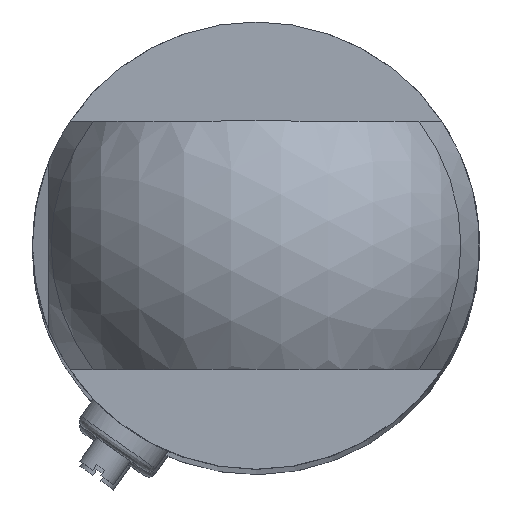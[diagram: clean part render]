
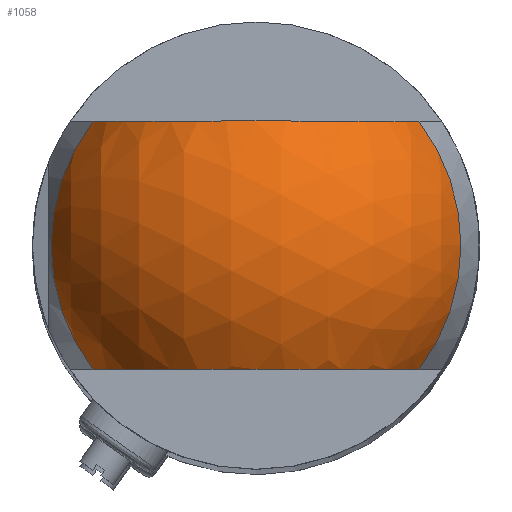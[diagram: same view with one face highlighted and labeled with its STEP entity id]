
A CAD part, top view. The second image highlights one B-rep face of the part: STEP entity #1058.
In plain terms, the highlighted spherical face has radius 26 mm.
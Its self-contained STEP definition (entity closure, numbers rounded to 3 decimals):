
#31=SPHERICAL_SURFACE('',#1175,26.);
#290=FACE_OUTER_BOUND('',#387,.T.);
#387=EDGE_LOOP('',(#839,#840,#841,#842));
#481=CIRCLE('',#1168,21.237);
#483=CIRCLE('',#1172,21.237);
#485=CIRCLE('',#1176,24.741);
#486=CIRCLE('',#1177,24.741);
#555=VERTEX_POINT('',#1751);
#556=VERTEX_POINT('',#1755);
#561=VERTEX_POINT('',#1770);
#562=VERTEX_POINT('',#1774);
#661=EDGE_CURVE('',#556,#555,#481,.T.);
#668=EDGE_CURVE('',#562,#561,#483,.T.);
#671=EDGE_CURVE('',#555,#562,#485,.T.);
#672=EDGE_CURVE('',#561,#556,#486,.T.);
#839=ORIENTED_EDGE('',*,*,#661,.T.);
#840=ORIENTED_EDGE('',*,*,#671,.T.);
#841=ORIENTED_EDGE('',*,*,#668,.T.);
#842=ORIENTED_EDGE('',*,*,#672,.T.);
#1058=ADVANCED_FACE('',(#290),#31,.T.);
#1168=AXIS2_PLACEMENT_3D('',#1756,#1386,#1387);
#1172=AXIS2_PLACEMENT_3D('',#1775,#1397,#1398);
#1175=AXIS2_PLACEMENT_3D('',#1781,#1403,#1404);
#1176=AXIS2_PLACEMENT_3D('',#1782,#1405,#1406);
#1177=AXIS2_PLACEMENT_3D('',#1783,#1407,#1408);
#1386=DIRECTION('center_axis',(0.,1.,0.));
#1387=DIRECTION('ref_axis',(0.,0.,-1.));
#1397=DIRECTION('center_axis',(0.,-1.,0.));
#1398=DIRECTION('ref_axis',(0.,0.,1.));
#1403=DIRECTION('center_axis',(0.,0.,1.));
#1404=DIRECTION('ref_axis',(1.,0.,0.));
#1405=DIRECTION('center_axis',(-1.,0.,0.));
#1406=DIRECTION('ref_axis',(0.,0.,1.));
#1407=DIRECTION('center_axis',(-1.,0.,0.));
#1408=DIRECTION('ref_axis',(0.,0.,1.));
#1751=CARTESIAN_POINT('',(-26.993,-15.,19.675));
#1755=CARTESIAN_POINT('',(-26.993,-15.,-19.675));
#1756=CARTESIAN_POINT('Origin',(-19.,-15.,0.));
#1770=CARTESIAN_POINT('',(-26.993,15.,-19.675));
#1774=CARTESIAN_POINT('',(-26.993,15.,19.675));
#1775=CARTESIAN_POINT('Origin',(-19.,15.,0.));
#1781=CARTESIAN_POINT('Origin',(-19.,0.,0.));
#1782=CARTESIAN_POINT('Origin',(-26.993,0.,0.));
#1783=CARTESIAN_POINT('Origin',(-26.993,0.,0.));
